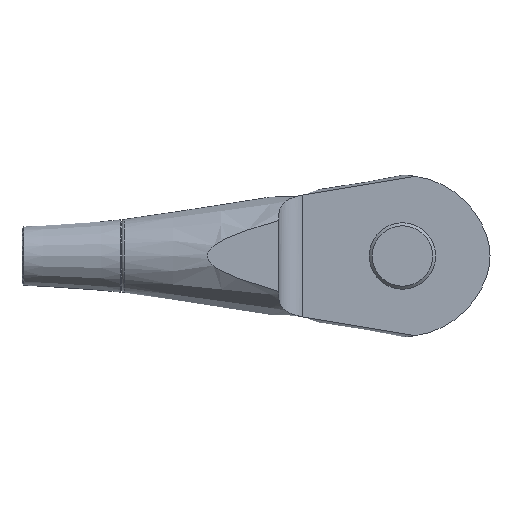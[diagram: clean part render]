
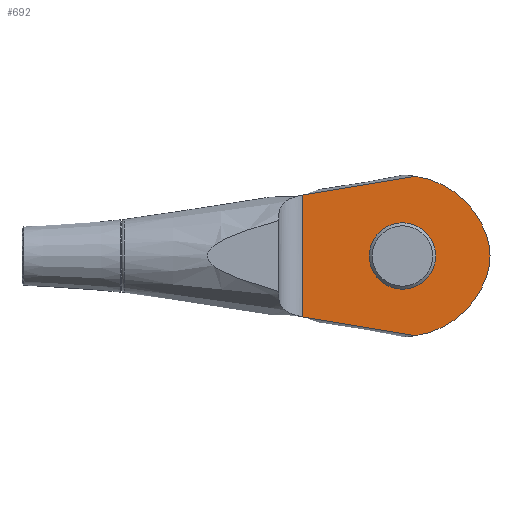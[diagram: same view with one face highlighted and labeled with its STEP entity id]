
A CAD part, front view. The second image highlights one B-rep face of the part: STEP entity #692.
In plain terms, the highlighted planar face has unit normal (0, -1, 0).
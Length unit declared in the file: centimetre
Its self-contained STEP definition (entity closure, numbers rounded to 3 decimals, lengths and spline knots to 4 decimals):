
#20=LINE('',#1209,#46);
#46=VECTOR('',#896,4.0305);
#77=(
BOUNDED_CURVE()
B_SPLINE_CURVE(2,(#1071,#1072,#1073),.UNSPECIFIED.,.F.,.F.)
B_SPLINE_CURVE_WITH_KNOTS((3,3),(0.,4.0973),.UNSPECIFIED.)
CURVE()
GEOMETRIC_REPRESENTATION_ITEM()
RATIONAL_B_SPLINE_CURVE((1.,1.013,1.009))
REPRESENTATION_ITEM('')
);
#81=(
BOUNDED_CURVE()
B_SPLINE_CURVE(2,(#1165,#1166,#1167),.UNSPECIFIED.,.F.,.F.)
B_SPLINE_CURVE_WITH_KNOTS((3,3),(2.187,6.2843),
 .UNSPECIFIED.)
CURVE()
GEOMETRIC_REPRESENTATION_ITEM()
RATIONAL_B_SPLINE_CURVE((1.009,1.013,1.))
REPRESENTATION_ITEM('')
);
#117=FACE_BOUND('',#211,.T.);
#152=FACE_OUTER_BOUND('',#210,.T.);
#210=EDGE_LOOP('',(#499,#500,#501,#502,#503,#504));
#211=EDGE_LOOP('',(#505));
#276=CIRCLE('',#754,0.9);
#278=CIRCLE('',#757,2.945);
#280=CIRCLE('',#760,2.945);
#282=CIRCLE('',#763,2.1);
#314=VERTEX_POINT('',#1055);
#315=VERTEX_POINT('',#1070);
#326=VERTEX_POINT('',#1153);
#327=VERTEX_POINT('',#1164);
#329=VERTEX_POINT('',#1189);
#331=VERTEX_POINT('',#1194);
#333=VERTEX_POINT('',#1200);
#377=EDGE_CURVE('',#314,#315,#77,.T.);
#389=EDGE_CURVE('',#326,#327,#81,.T.);
#394=EDGE_CURVE('',#329,#329,#276,.T.);
#396=EDGE_CURVE('',#326,#331,#278,.T.);
#399=EDGE_CURVE('',#333,#315,#280,.T.);
#402=EDGE_CURVE('',#331,#333,#282,.T.);
#404=EDGE_CURVE('',#314,#327,#20,.T.);
#499=ORIENTED_EDGE('',*,*,#396,.T.);
#500=ORIENTED_EDGE('',*,*,#402,.T.);
#501=ORIENTED_EDGE('',*,*,#399,.T.);
#502=ORIENTED_EDGE('',*,*,#377,.F.);
#503=ORIENTED_EDGE('',*,*,#404,.T.);
#504=ORIENTED_EDGE('',*,*,#389,.F.);
#505=ORIENTED_EDGE('',*,*,#394,.T.);
#608=PLANE('',#765);
#692=ADVANCED_FACE('',(#152,#117),#608,.F.);
#754=AXIS2_PLACEMENT_3D('',#1190,#870,#871);
#757=AXIS2_PLACEMENT_3D('',#1195,#876,#877);
#760=AXIS2_PLACEMENT_3D('',#1201,#883,#884);
#763=AXIS2_PLACEMENT_3D('',#1206,#890,#891);
#765=AXIS2_PLACEMENT_3D('',#1208,#894,#895);
#870=DIRECTION('center_axis',(0.,1.,0.));
#871=DIRECTION('ref_axis',(-1.,0.,0.));
#876=DIRECTION('center_axis',(0.,-1.,0.));
#877=DIRECTION('ref_axis',(0.,0.,
1.));
#883=DIRECTION('center_axis',(0.,-1.,0.));
#884=DIRECTION('ref_axis',(-0.947,0.,-0.322));
#890=DIRECTION('center_axis',(0.,-1.,0.));
#891=DIRECTION('ref_axis',(-0.947,0.,0.322));
#894=DIRECTION('center_axis',(0.,1.,0.));
#895=DIRECTION('ref_axis',(-1.,0.,0.));
#896=DIRECTION('',(0.,0.,-1.));
#1055=CARTESIAN_POINT('',(-3.3,-0.75,2.0153));
#1070=CARTESIAN_POINT('',(0.4457,-0.75,2.6391));
#1071=CARTESIAN_POINT('Ctrl Pts',(-3.3,-0.75,2.0153));
#1072=CARTESIAN_POINT('Ctrl Pts',(-1.6782,-0.75,2.2894));
#1073=CARTESIAN_POINT('Ctrl Pts',(0.4457,-0.75,2.6391));
#1153=CARTESIAN_POINT('',(0.4457,-0.75,-2.6391));
#1164=CARTESIAN_POINT('',(-3.3,-0.75,-2.0153));
#1165=CARTESIAN_POINT('Ctrl Pts',(0.4457,-0.75,-2.6391));
#1166=CARTESIAN_POINT('Ctrl Pts',(-1.6782,-0.75,-2.2894));
#1167=CARTESIAN_POINT('Ctrl Pts',(-3.3,-0.75,-2.0153));
#1189=CARTESIAN_POINT('',(0.9,-0.75,0.));
#1190=CARTESIAN_POINT('Origin',(0.,-0.75,0.));
#1194=CARTESIAN_POINT('',(2.7882,-0.75,-0.676));
#1195=CARTESIAN_POINT('Origin',(0.,-0.75,0.272));
#1200=CARTESIAN_POINT('',(2.7882,-0.75,0.676));
#1201=CARTESIAN_POINT('Origin',(0.,-0.75,-0.272));
#1206=CARTESIAN_POINT('Origin',(0.8,-0.75,0.));
#1208=CARTESIAN_POINT('Origin',(2.9,-0.75,0.));
#1209=CARTESIAN_POINT('',(-3.3,-0.75,0.));
